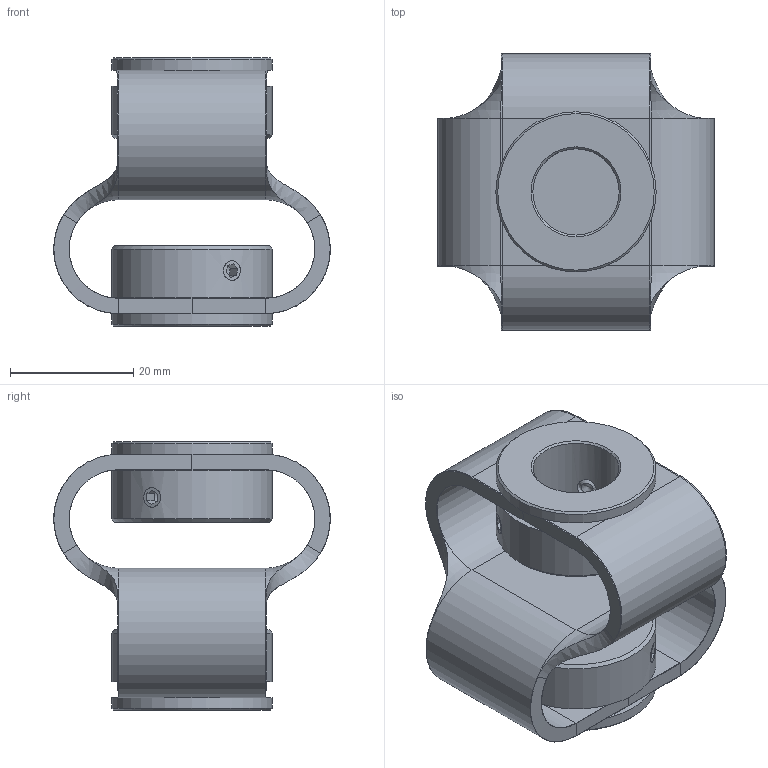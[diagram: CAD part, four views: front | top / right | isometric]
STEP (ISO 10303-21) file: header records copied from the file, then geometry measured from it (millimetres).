
FILE_DESCRIPTION(/* description */ ('Stern '),/* implementation_level */ '2;1');
FILE_NAME(/* name */ 'Z:\ABP-Antriebstechnik\Entwicklung-3D\Paguflex\DKPSF\DKPSF4848 14 14.stp',/* time_stamp */ '2024-03-11T14:58:08+01:00',/* author */ ('christian.fehrenbach'),/* organization */ (''),/* preprocessor_version */ 'ST-DEVELOPER v16.1',/* originating_system */ 'Autodesk Inventor 2016',/* authorisation */ '');
FILE_SCHEMA (('AUTOMOTIVE_DESIGN { 1 0 10303 214 3 1 1 }'));
Length unit declared in the file: millimetre
Products named in the file (4): Stern 4848 gebogen; Schraubnabe 2513 14; M4-6; DKPSF4848 14 14
Assembly tree (7 placements, depth 2):
  DKPSF4848 14 14
    Stern 4848 gebogen
    Schraubnabe 2513 14  x2
    M4-6  x4
Bounding box: 44.87 x 44.87 x 43.5 mm (x, y, z)
Volume: 18541.4 mm3; surface area: 15687.9 mm2
Topology: 7 solids, 11 shells, 170 faces, 360 edges, 202 vertices
Faces by surface type: plane 84, cylinder 46, cone 28, torus 8, bspline 4
Full cylindrical faces by diameter (mm): 3.242 x4, 4 x4, 14 x2, 16.5 x2, 18 x2, 26 x4
Entity records: 3051 total; most frequent: CARTESIAN_POINT 795, DIRECTION 484, ORIENTED_EDGE 416, EDGE_CURVE 196, AXIS2_PLACEMENT_3D 195, EDGE_LOOP 124, VERTEX_POINT 116, FACE_OUTER_BOUND 100
